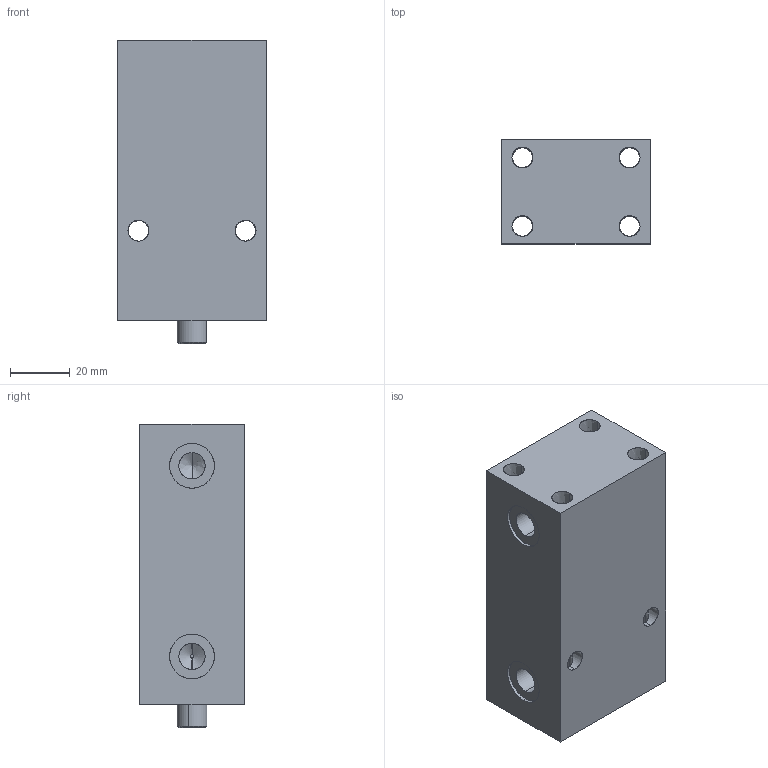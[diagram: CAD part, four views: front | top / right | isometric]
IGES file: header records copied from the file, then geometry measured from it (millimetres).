
Start section: SolidWorks IGES file using analytic representation for surfaces
Global section: file name: D:\karuppas\Clasp\3D model\Block cylinder B01C-Female thread\B01C-005F\Block cylinder B01C-0050F.IGS; native system: SolidWorks 2017; preprocessor: SolidWorks 2017; author: pc; date: 220709.235404; units: millimetre
Bounding box: 50 x 35 x 102 mm (x, y, z)
Surface area: 34186.7 mm2 (no closed solid volume)
Topology: 0 solids, 0 shells, 362 faces, 5691 edges, 5687 vertices
Faces by surface type: bspline 310, revolution 52
